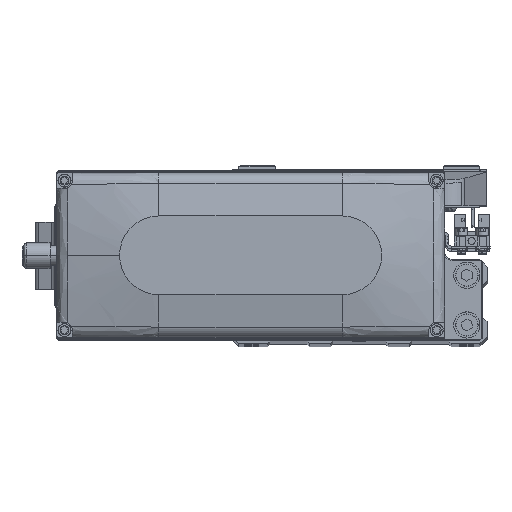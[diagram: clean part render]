
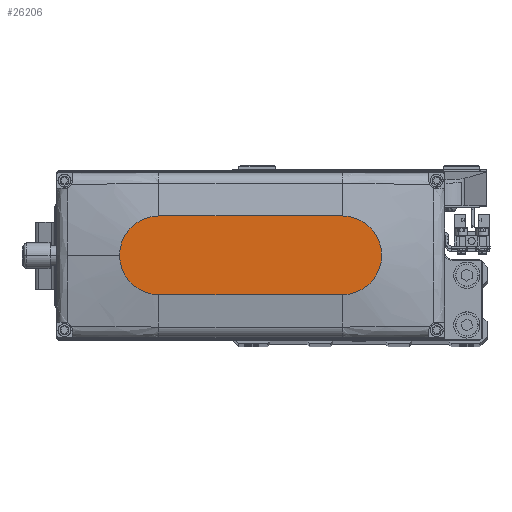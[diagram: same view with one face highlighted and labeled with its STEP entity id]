
A CAD part, top view. The second image highlights one B-rep face of the part: STEP entity #26206.
In plain terms, the highlighted planar face has unit normal (0, 0, 1).
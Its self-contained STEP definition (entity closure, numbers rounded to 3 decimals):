
#312 = DIRECTION ( 'NONE',  ( 1., 0., 0. ) ) ;
#1021 = CARTESIAN_POINT ( 'NONE',  ( -35., 0., 35. ) ) ;
#1277 = CIRCLE ( 'NONE', #33366, 15. ) ;
#2673 = AXIS2_PLACEMENT_3D ( 'NONE', #16447, #30716, #44968 ) ;
#3229 = EDGE_CURVE ( 'NONE', #40471, #6180, #42825, .T. ) ;
#3639 = LINE ( 'NONE', #17883, #36529 ) ;
#3819 = PLANE ( 'NONE',  #38220 ) ;
#5948 = CARTESIAN_POINT ( 'NONE',  ( 35., -15., 35. ) ) ;
#6180 = VERTEX_POINT ( 'NONE', #18010 ) ;
#6502 = ORIENTED_EDGE ( 'NONE', *, *, #21063, .T. ) ;
#10782 = CARTESIAN_POINT ( 'NONE',  ( -35., 15., 35. ) ) ;
#11374 = EDGE_CURVE ( 'NONE', #19520, #40471, #1277, .T. ) ;
#11608 = VERTEX_POINT ( 'NONE', #28996 ) ;
#11847 = CARTESIAN_POINT ( 'NONE',  ( 50., 0., 35. ) ) ;
#12883 = DIRECTION ( 'NONE',  ( 1., 0., 0. ) ) ;
#13798 = ORIENTED_EDGE ( 'NONE', *, *, #3229, .T. ) ;
#15246 = DIRECTION ( 'NONE',  ( 0., 0., 1. ) ) ;
#16447 = CARTESIAN_POINT ( 'NONE',  ( 35., 0., 35. ) ) ;
#17883 = CARTESIAN_POINT ( 'NONE',  ( -35., -15., 35. ) ) ;
#18010 = CARTESIAN_POINT ( 'NONE',  ( -35., 15., 35. ) ) ;
#18060 = CARTESIAN_POINT ( 'NONE',  ( 0., 0., 35. ) ) ;
#19278 = CARTESIAN_POINT ( 'NONE',  ( 35., 15., 35. ) ) ;
#19520 = VERTEX_POINT ( 'NONE', #11847 ) ;
#21063 = EDGE_CURVE ( 'NONE', #11608, #31102, #3639, .T. ) ;
#21821 = AXIS2_PLACEMENT_3D ( 'NONE', #1021, #15246, #29520 ) ;
#22848 = CIRCLE ( 'NONE', #2673, 15. ) ;
#25072 = DIRECTION ( 'NONE',  ( -1., 0., 0. ) ) ;
#26206 = ADVANCED_FACE ( 'NONE', ( #35833 ), #3819, .T. ) ;
#26254 = EDGE_CURVE ( 'NONE', #6180, #11608, #41968, .T. ) ;
#28996 = CARTESIAN_POINT ( 'NONE',  ( -35., -15., 35. ) ) ;
#29520 = DIRECTION ( 'NONE',  ( 1., 0., 0. ) ) ;
#30678 = CARTESIAN_POINT ( 'NONE',  ( 35., 0., 35. ) ) ;
#30716 = DIRECTION ( 'NONE',  ( 0., 0., 1. ) ) ;
#31102 = VERTEX_POINT ( 'NONE', #5948 ) ;
#32147 = DIRECTION ( 'NONE',  ( 1., 0., 0. ) ) ;
#32318 = DIRECTION ( 'NONE',  ( 0., 0., 1. ) ) ;
#33273 = ORIENTED_EDGE ( 'NONE', *, *, #45631, .T. ) ;
#33366 = AXIS2_PLACEMENT_3D ( 'NONE', #30678, #44933, #12883 ) ;
#33387 = VECTOR ( 'NONE', #25072, 1000. ) ;
#33588 = EDGE_LOOP ( 'NONE', ( #13798, #42983, #6502, #33273, #45846 ) ) ;
#35833 = FACE_OUTER_BOUND ( 'NONE', #33588, .T. ) ;
#36529 = VECTOR ( 'NONE', #32147, 1000. ) ;
#38220 = AXIS2_PLACEMENT_3D ( 'NONE', #18060, #32318, #312 ) ;
#40471 = VERTEX_POINT ( 'NONE', #19278 ) ;
#41968 = CIRCLE ( 'NONE', #21821, 15. ) ;
#42825 = LINE ( 'NONE', #10782, #33387 ) ;
#42983 = ORIENTED_EDGE ( 'NONE', *, *, #26254, .T. ) ;
#44933 = DIRECTION ( 'NONE',  ( 0., 0., 1. ) ) ;
#44968 = DIRECTION ( 'NONE',  ( 1., 0., 0. ) ) ;
#45631 = EDGE_CURVE ( 'NONE', #31102, #19520, #22848, .T. ) ;
#45846 = ORIENTED_EDGE ( 'NONE', *, *, #11374, .T. ) ;
